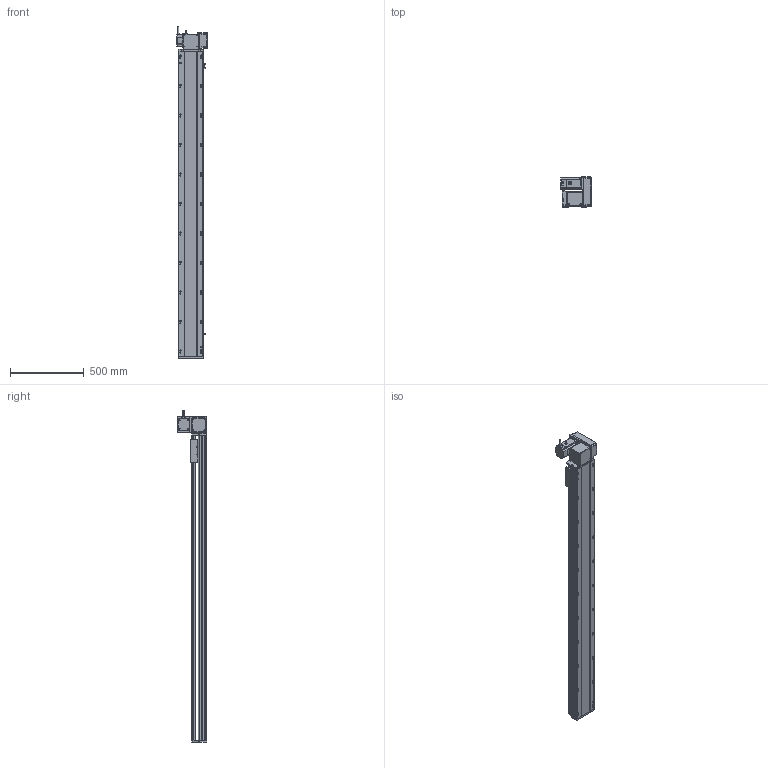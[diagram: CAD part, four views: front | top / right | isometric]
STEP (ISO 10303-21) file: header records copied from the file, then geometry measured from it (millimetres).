
FILE_DESCRIPTION (( 'STEP AP214' ), '1' );
FILE_NAME ('RTB17S-XX-1800-RW-M75-C4.STEP', '2025-12-12T02:41:03', ( '' ), ( '' ), 'SwSTEP 2.0', 'SolidWorks 2018', '' );
FILE_SCHEMA (( 'AUTOMOTIVE_DESIGN' ));
Length unit declared in the file: millimetre
Products named in the file (15): RTB17S-賑釱^RTB17S-XX-XX-RW-M75-C4; 750W萇儂^RTB17S-XX-XX-RW-M75-C4; RTH13-BL-012覜茼え俋离^RTB17S-賑釱_RTB17S-XX-XX-RW-M75-C4; RTB17S-L-001-耜醱啣^RTB17S-XX-XX-RW-M75-C4; RTB17-R-011菁釱^RTB17S-XX-XX-RW-M75-C4; RTB17S-XX-1800-RW-M75-C4; RTB17S-L-004-賑釱^RTB17S-賑釱_RTB17S-XX-XX-RW-M75-C4; RTB17S-L-007奻裔^RTB17S-XX-XX-RW-M75-C4; RTB22S-GY-017P^RTB17S-RW-々湍釱蚾饜-750W_RTB17S-XX-XX-RW-M75-C4; EE672^RTB17S-XX-XX-RW-M75-C4; RMP17S-L-014-T20-P75--々湍釱^RTB17S-RW-々湍釱蚾饜-750W_RTB17S-XX-XX-RW-M75-C4; RTB17S-RW-々湍釱蚾饜-750W^RTB17S-XX-XX-RW-M75-C4; RTB22S-GY-008-M75--萇儂啣^RTB17S-RW-々湍釱蚾饜-750W_RTB17S-XX-XX-RW-M75-C4; RTB22S-GY-018P^RTB17S-RW-々湍釱蚾饜-750W_RTB17S-XX-XX-RW-M75-C4; RTB22S-GY-005P^RTB17S-RW-々湍釱蚾饜-750W_RTB17S-XX-XX-RW-M75-C4
Assembly tree (17 placements, depth 3):
  RTB17S-XX-1800-RW-M75-C4
    RTB17-R-011菁釱^RTB17S-XX-XX-RW-M75-C4
    EE672^RTB17S-XX-XX-RW-M75-C4  x3
    RTB17S-L-001-耜醱啣^RTB17S-XX-XX-RW-M75-C4
    RTB17S-賑釱^RTB17S-XX-XX-RW-M75-C4
      RTB17S-L-004-賑釱^RTB17S-賑釱_RTB17S-XX-XX-RW-M75-C4
      RTH13-BL-012覜茼え俋离^RTB17S-賑釱_RTB17S-XX-XX-RW-M75-C4
    RTB17S-L-007奻裔^RTB17S-XX-XX-RW-M75-C4
    750W萇儂^RTB17S-XX-XX-RW-M75-C4
    RTB17S-RW-々湍釱蚾饜-750W^RTB17S-XX-XX-RW-M75-C4
      RMP17S-L-014-T20-P75--々湍釱^RTB17S-RW-々湍釱蚾饜-750W_RTB17S-XX-XX-RW-M75-C4
      RTB22S-GY-005P^RTB17S-RW-々湍釱蚾饜-750W_RTB17S-XX-XX-RW-M75-C4
      RTB22S-GY-017P^RTB17S-RW-々湍釱蚾饜-750W_RTB17S-XX-XX-RW-M75-C4  x2
      RTB22S-GY-008-M75--萇儂啣^RTB17S-RW-々湍釱蚾饜-750W_RTB17S-XX-XX-RW-M75-C4
      RTB22S-GY-018P^RTB17S-RW-々湍釱蚾饜-750W_RTB17S-XX-XX-RW-M75-C4
Bounding box: 207.4 x 201.5 x 2252.2 mm (x, y, z)
Volume: 17204687.3 mm3; surface area: 3052683.1 mm2
Topology: 17 solids, 17 shells, 2153 faces, 5998 edges, 3878 vertices
Faces by surface type: plane 978, cylinder 759, bspline 294, cone 110, sphere 8, torus 4
Entity records: 61174 total; most frequent: CARTESIAN_POINT 18062, ORIENTED_EDGE 8840, DIRECTION 8222, EDGE_CURVE 4420, AXIS2_PLACEMENT_3D 2898, VERTEX_POINT 2882, VECTOR 2426, LINE 2426
